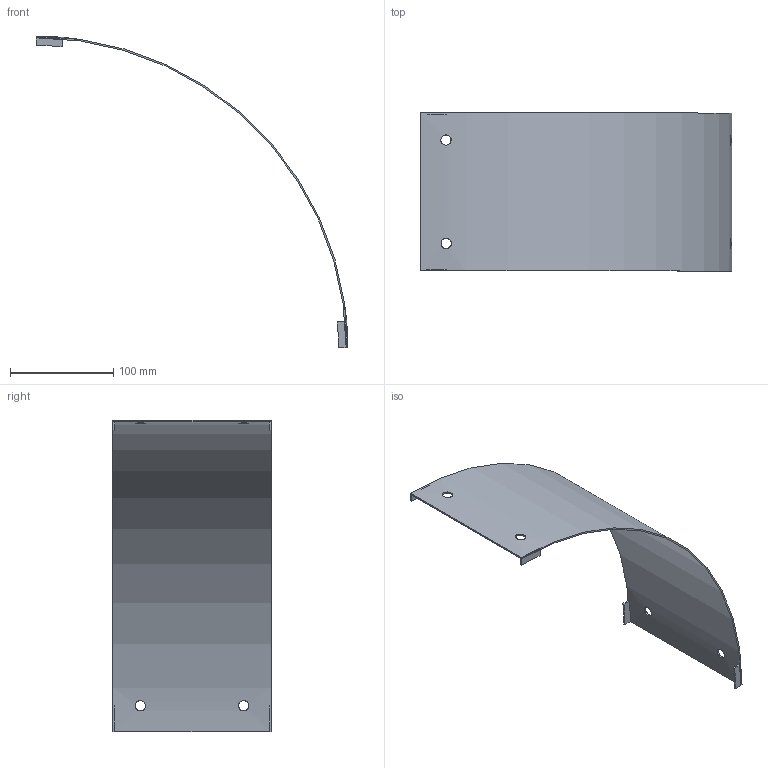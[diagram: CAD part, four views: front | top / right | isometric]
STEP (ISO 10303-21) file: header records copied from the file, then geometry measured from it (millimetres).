
FILE_DESCRIPTION(/* description */ ('','CAx-IF Rec.Pracs.---Representation and Presentation of Product Manufacturing Information (PMI)---4.0---2014-10-13'),/* implementation_level */ '2;1');
FILE_NAME(/* name */ 'Eurostrut_EORC100-90-300_Cover Outside Riser 90 for Cable Ladder ECL.step',/* time_stamp */ '2026-09-10T12:22:37+02:00',/* author */ (''),/* organization */ (''),/* preprocessor_version */ 'ST-DEVELOPER v20.1',/* originating_system */ 'Autodesk Revit 2027 27.2.0.39',/* authorisation */ '');
FILE_SCHEMA (('AP242_MANAGED_MODEL_BASED_3D_ENGINEERING_MIM_LF { 1 0 10303 442 2 1 4 }'));
Length unit declared in the file: millimetre
Products named in the file (3): TopLevelAssembly; Sweep; Joined Solid Geometry
Assembly tree (2 placements, depth 2):
  TopLevelAssembly
    Sweep
    Joined Solid Geometry
Bounding box: 301.5 x 153 x 301.5 mm (x, y, z)
Volume: 109074.8 mm3; surface area: 147888.5 mm2
Topology: 5 solids, 5 shells, 38 faces, 84 edges, 56 vertices
Faces by surface type: plane 20, cylinder 18
Entity records: 1356 total; most frequent: CARTESIAN_POINT 459, DIRECTION 174, ORIENTED_EDGE 168, EDGE_CURVE 84, AXIS2_PLACEMENT_3D 63, VERTEX_POINT 56, LINE 48, VECTOR 48
